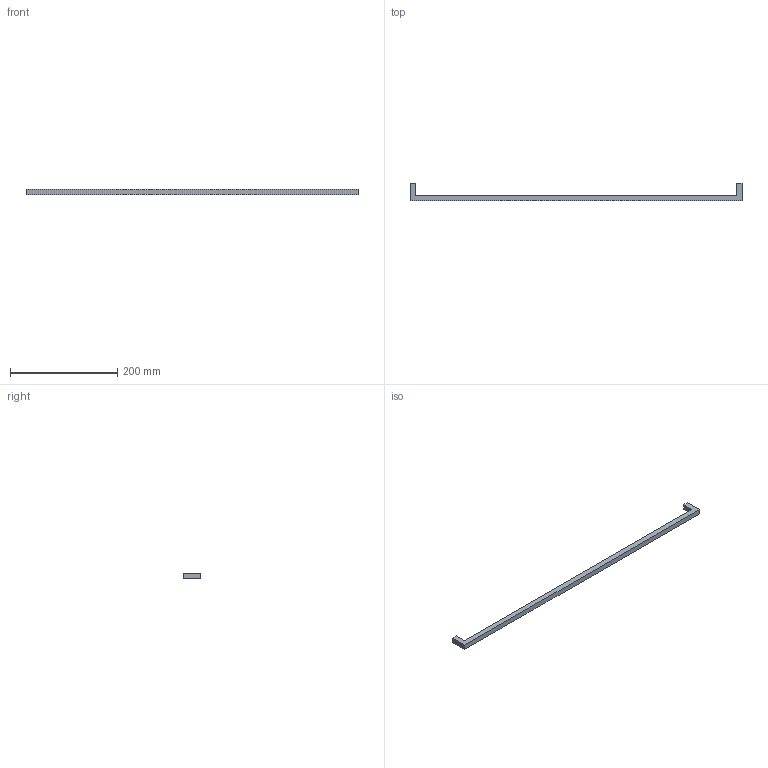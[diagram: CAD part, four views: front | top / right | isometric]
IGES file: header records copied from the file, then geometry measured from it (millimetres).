
Start section: Data from Parasolid IGES Translator 15.0.47, Copyright(c) 2006 Siemens P LM Software. All Rights Reserved.
Global section: file name: 1160024.igs; native system:  By UGS Corp.; preprocessor: XPlus GENERIC/IGES 3.0; author: Noname; organization: Noname; date: 20140122.181821; units: millimetre
Bounding box: 618 x 32 x 10 mm (x, y, z)
Surface area: 26931.3 mm2 (no closed solid volume)
Topology: 0 solids, 0 shells, 14 faces, 60 edges, 58 vertices
Faces by surface type: extrusion 12, revolution 2
